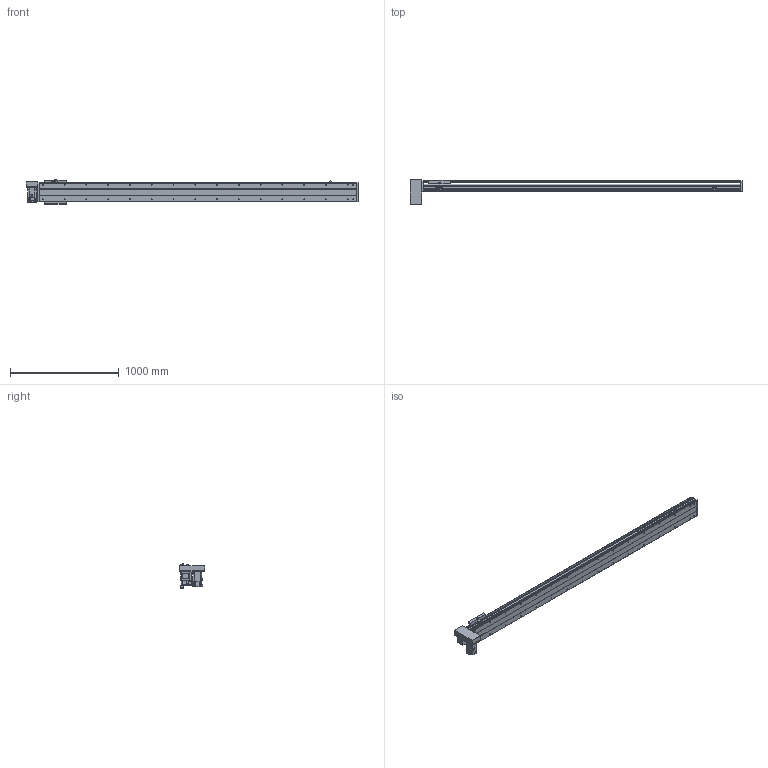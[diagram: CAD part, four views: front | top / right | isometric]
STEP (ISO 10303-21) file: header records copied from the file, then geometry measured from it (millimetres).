
FILE_DESCRIPTION(/* description */ ('STEP AP214'),/* implementation_level */ '2;1');
FILE_NAME(/* name */ 'PBS200-P40-S2550-RD-T75-C1-N(0)',/* time_stamp */ '2022-06-11T09:31:59+02:00',/* author */ ('License CC BY-ND 4.0'),/* organization */ ('CADENAS'),/* preprocessor_version */ 'ST-DEVELOPER v18.102',/* originating_system */ 'PARTsolutions',/* authorisation */ ' ');
FILE_SCHEMA (('AUTOMOTIVE_DESIGN {1 0 10303 214 3 1 1}'));
Length unit declared in the file: millimetre
Products named in the file (7): PBS200-P40-S2550-RD-T75-C1-N(0); PBS200_sensor; PBS200_plant; PBS200_sliser; T75-p1; PBS200T-RD_motors; PBS200-S2550()_body
Assembly tree (8 placements, depth 2):
  PBS200-P40-S2550-RD-T75-C1-N(0)
    PBS200_sensor  x3
    PBS200_plant
    PBS200_sliser
    T75-p1
    PBS200T-RD_motors
    PBS200-S2550()_body
Bounding box: 3050 x 230 x 221 mm (x, y, z)
Volume: 20915744.8 mm3; surface area: 3345806.8 mm2
Topology: 8 solids, 8 shells, 968 faces, 2454 edges, 1596 vertices
Faces by surface type: plane 590, cylinder 314, cone 64
Full cylindrical faces by diameter (mm): 2.459 x6, 3.242 x4, 4.5 x6, 4.917 x4, 5 x6, 6 x7, 6.6 x8, 6.647 x36, 8 x6, 10 x4, 12 x8, 38 x2, 40 x1, 70 x1
Entity records: 25541 total; most frequent: DIRECTION 4519, CARTESIAN_POINT 4336, ORIENTED_EDGE 4078, EDGE_CURVE 2039, AXIS2_PLACEMENT_3D 1603, VERTEX_POINT 1420, LINE 1313, VECTOR 1313
